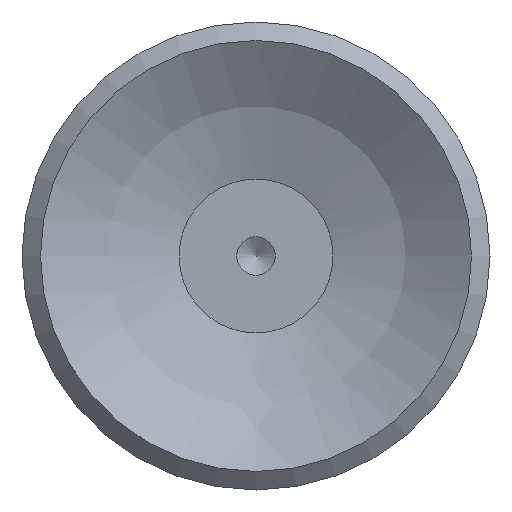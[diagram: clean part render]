
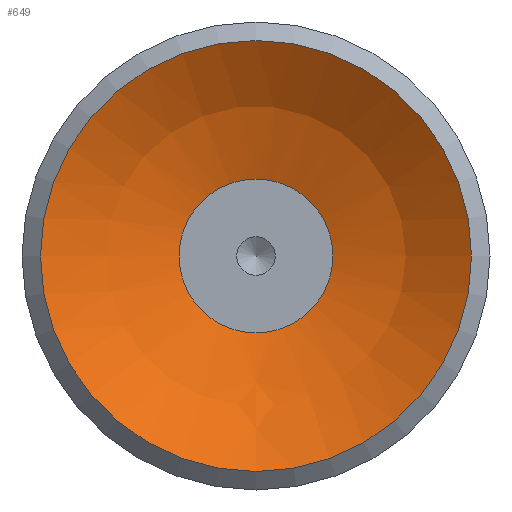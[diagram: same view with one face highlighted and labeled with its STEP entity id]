
A CAD part, front view. The second image highlights one B-rep face of the part: STEP entity #649.
In plain terms, the highlighted spherical face has radius 11.5 mm.
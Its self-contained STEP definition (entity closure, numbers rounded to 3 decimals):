
#649=ADVANCED_FACE('',(#1134,#1135),#1136,.F.);
#1134=FACE_OUTER_BOUND('',#1670,.T.);
#1135=FACE_OUTER_BOUND('',#1671,.T.);
#1136=SPHERICAL_SURFACE('',#1672,11.5);
#1670=EDGE_LOOP('',(#3088));
#1671=EDGE_LOOP('',(#3089));
#1672=AXIS2_PLACEMENT_3D('',#3090,#3091,#3092);
#3088=ORIENTED_EDGE('',*,*,#3688,.T.);
#3089=ORIENTED_EDGE('',*,*,#3732,.F.);
#3090=CARTESIAN_POINT('',(0.001,9.494,-22.735));
#3091=DIRECTION('',(0.0,0.,-1.0));
#3092=DIRECTION('',(1.0,0.0,0.0));
#3688=EDGE_CURVE('',#4405,#4405,#4406,.T.);
#3732=EDGE_CURVE('',#4478,#4478,#4479,.T.);
#4405=VERTEX_POINT('',#6246);
#4406=CIRCLE('',#6247,7.0);
#4478=VERTEX_POINT('',#6319);
#4479=CIRCLE('',#6320,2.5);
#6246=CARTESIAN_POINT('',(0.001,16.494,-13.611));
#6247=AXIS2_PLACEMENT_3D('',#6934,#6935,#6936);
#6319=CARTESIAN_POINT('',(0.001,11.994,-11.51));
#6320=AXIS2_PLACEMENT_3D('',#7066,#7067,#7068);
#6934=CARTESIAN_POINT('',(0.001,9.494,-13.611));
#6935=DIRECTION('',(0.0,0.,-1.0));
#6936=DIRECTION('',(0.0,1.0,0.));
#7066=CARTESIAN_POINT('',(0.001,9.494,-11.51));
#7067=DIRECTION('',(0.0,0.,-1.0));
#7068=DIRECTION('',(0.0,1.0,0.));
